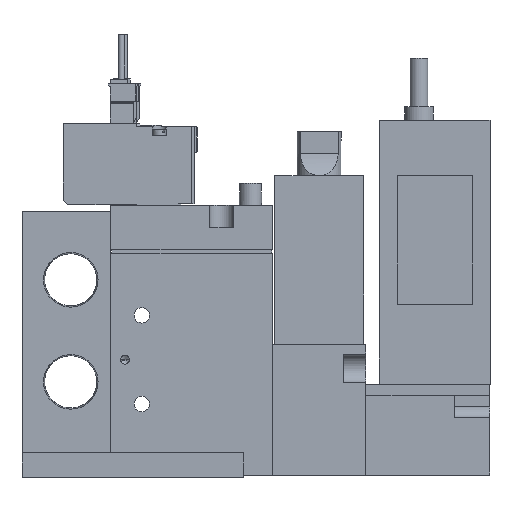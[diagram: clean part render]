
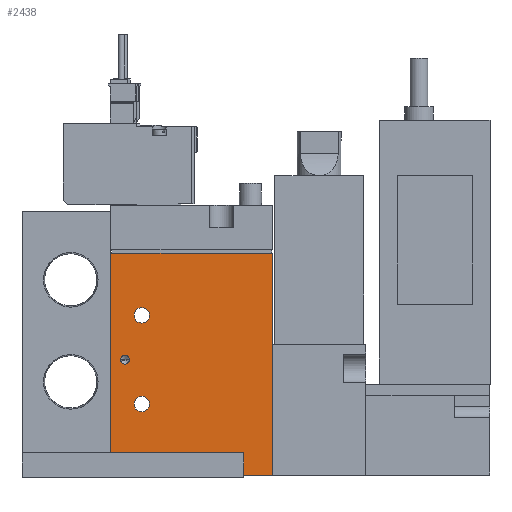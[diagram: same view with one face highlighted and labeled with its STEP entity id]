
A CAD part, left-side view. The second image highlights one B-rep face of the part: STEP entity #2438.
In plain terms, the highlighted planar face has unit normal (-1, 0, 0) as drawn and (1, 0, 0) by its records, which use the part's own axes.
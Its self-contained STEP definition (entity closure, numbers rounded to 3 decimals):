
#2438=ADVANCED_FACE('',(#3783,#3784,#3785,#3786),#3787,.F.);
#3783=FACE_BOUND('',#6620,.T.);
#3784=FACE_BOUND('',#6621,.T.);
#3785=FACE_BOUND('',#6622,.T.);
#3786=FACE_OUTER_BOUND('',#6623,.T.);
#3787=PLANE('',#6624);
#6620=EDGE_LOOP('',(#9841));
#6621=EDGE_LOOP('',(#9842));
#6622=EDGE_LOOP('',(#9843));
#6623=EDGE_LOOP('',(#9844,#9845,#9846,#9847));
#6624=AXIS2_PLACEMENT_3D('',#9848,#9849,#9850);
#9841=ORIENTED_EDGE('',*,*,#19006,.F.);
#9842=ORIENTED_EDGE('',*,*,#19007,.T.);
#9843=ORIENTED_EDGE('',*,*,#19008,.T.);
#9844=ORIENTED_EDGE('',*,*,#19009,.T.);
#9845=ORIENTED_EDGE('',*,*,#19010,.F.);
#9846=ORIENTED_EDGE('',*,*,#19011,.F.);
#9847=ORIENTED_EDGE('',*,*,#19012,.T.);
#9848=CARTESIAN_POINT('',(8.5,-19.444,50.0));
#9849=DIRECTION('',(-1.0,0.0,0.0));
#9850=DIRECTION('',(0.0,0.0,1.0));
#19006=EDGE_CURVE('',#22079,#22079,#22080,.T.);
#19007=EDGE_CURVE('',#22081,#22081,#22082,.T.);
#19008=EDGE_CURVE('',#22083,#22083,#22084,.T.);
#19009=EDGE_CURVE('',#22085,#22086,#22087,.T.);
#19010=EDGE_CURVE('',#22088,#22086,#22089,.T.);
#19011=EDGE_CURVE('',#22090,#22088,#22091,.T.);
#19012=EDGE_CURVE('',#22090,#22085,#22092,.T.);
#22079=VERTEX_POINT('',#27244);
#22080=CIRCLE('',#27245,1.0);
#22081=VERTEX_POINT('',#27246);
#22082=CIRCLE('',#27247,1.75);
#22083=VERTEX_POINT('',#27248);
#22084=CIRCLE('',#27249,1.75);
#22085=VERTEX_POINT('',#27250);
#22086=VERTEX_POINT('',#27251);
#22087=LINE('',#27252,#27253);
#22088=VERTEX_POINT('',#27254);
#22089=LINE('',#27255,#27256);
#22090=VERTEX_POINT('',#27257);
#22091=LINE('',#27258,#27259);
#22092=LINE('',#27260,#27261);
#27244=CARTESIAN_POINT('',(8.5,-17.244,26.0));
#27245=AXIS2_PLACEMENT_3D('',#34580,#34581,#34582);
#27246=CARTESIAN_POINT('',(8.5,-10.694,36.0));
#27247=AXIS2_PLACEMENT_3D('',#34583,#34584,#34585);
#27248=CARTESIAN_POINT('',(8.5,-10.694,16.0));
#27249=AXIS2_PLACEMENT_3D('',#34586,#34587,#34588);
#27250=CARTESIAN_POINT('',(8.5,-19.444,0.0));
#27251=CARTESIAN_POINT('',(8.5,17.056,0.0));
#27252=CARTESIAN_POINT('',(8.5,-19.444,0.0));
#27253=VECTOR('',#34589,1.0);
#27254=CARTESIAN_POINT('',(8.5,17.056,50.0));
#27255=CARTESIAN_POINT('',(8.5,17.056,50.0));
#27256=VECTOR('',#34590,1.0);
#27257=CARTESIAN_POINT('',(8.5,-19.444,50.0));
#27258=CARTESIAN_POINT('',(8.5,-19.444,50.0));
#27259=VECTOR('',#34591,1.0);
#27260=CARTESIAN_POINT('',(8.5,-19.444,50.0));
#27261=VECTOR('',#34592,1.0);
#34580=CARTESIAN_POINT('',(8.5,-16.244,26.0));
#34581=DIRECTION('',(1.0,0.,0.0));
#34582=DIRECTION('',(0.,-1.0,0.0));
#34583=CARTESIAN_POINT('',(8.5,-12.444,36.0));
#34584=DIRECTION('',(-1.0,0.0,0.0));
#34585=DIRECTION('',(0.0,1.0,0.0));
#34586=CARTESIAN_POINT('',(8.5,-12.444,16.0));
#34587=DIRECTION('',(-1.0,0.0,0.0));
#34588=DIRECTION('',(0.0,1.0,0.0));
#34589=DIRECTION('',(0.0,1.0,0.0));
#34590=DIRECTION('',(0.0,0.0,-1.0));
#34591=DIRECTION('',(0.0,1.0,0.0));
#34592=DIRECTION('',(0.0,0.0,-1.0));
